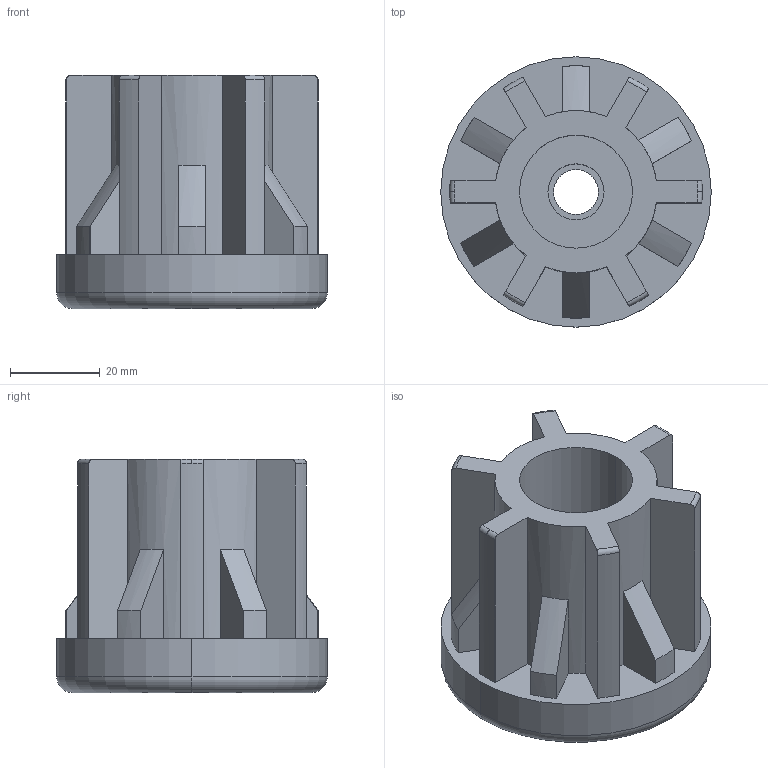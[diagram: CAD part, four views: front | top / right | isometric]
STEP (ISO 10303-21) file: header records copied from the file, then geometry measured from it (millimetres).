
FILE_DESCRIPTION (( 'STEP AP214' ), '1' );
FILE_NAME ('42006460410.STEP', '2020-02-25T17:43:04', ( '' ), ( '' ), 'SwSTEP 2.0', 'SolidWorks 2018', '' );
FILE_SCHEMA (( 'AUTOMOTIVE_DESIGN' ));
Length unit declared in the file: millimetre
Products named in the file (4): 42006460410.stp; 42006460410; corpo tappo M8_60_57.stp; BC_M10.stp
Assembly tree (3 placements, depth 3):
  42006460410
    42006460410.stp
      corpo tappo M8_60_57.stp
      BC_M10.stp
Bounding box: 60.3 x 60.3 x 52 mm (x, y, z)
Volume: 77797.5 mm3; surface area: 22225 mm2
Topology: 2 solids, 2 shells, 99 faces, 264 edges, 172 vertices
Faces by surface type: cylinder 44, plane 31, torus 12, cone 6, bspline 6
Entity records: 4110 total; most frequent: CARTESIAN_POINT 1502, ORIENTED_EDGE 528, DIRECTION 528, EDGE_CURVE 264, AXIS2_PLACEMENT_3D 206, VERTEX_POINT 172, VECTOR 116, LINE 116
